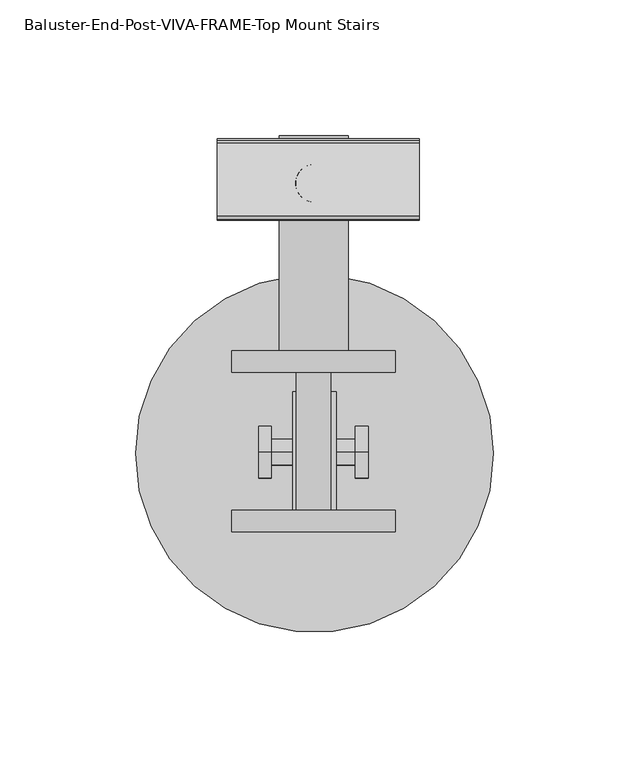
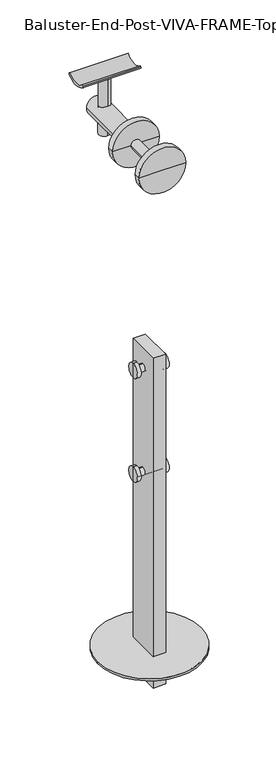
"""IFC4 building model written with IfcOpenShell, lengths in millimetres: proxy geometry, Baluster-End-Post-VIVA-FRAME-Top Mount Stairs : CORED INTO CONCRETE_TOP MOUNT FRAME_STAIR."""

from ifc_helpers import new_model, si_unit, point, frame, frame_2d, origin, place, context, project, spatial, polyline, circle_curve, trimmed, segment, composite_curve, outline, extrude, source, transform, mapped, element, save
from ifc_brep_helpers import plane_surface, cylinder_surface, advanced_brep


def baluster_end_post_viva_frame_top_mount_stairs_5fb22de0(model_context):
    return source(origin(), model_context, "Body", "SolidModel", [
        advanced_brep(
        [(-30.4813346, -121.9403, -73.6790445), (-6.6688346, -121.9403, -73.6790445), (6.0311654, -121.9403, -73.6790445), (29.8436654, -121.9403, -73.6790445), (-30.4813346, -129.8778, -73.6790445), (29.8436654, -129.8778, -73.6790445), (-30.4813346, -63.2028, -73.6790445), (-13.0188346, -63.2028, -73.6790445), (12.3811654, -63.2028, -73.6790445), (29.8436654, -63.2028, -73.6790445), (-30.4813346, -71.1403, -73.6790445), (29.8436654, -71.1403, -73.6790445), (-0.3188346, -129.8778, -73.6790445), (-13.0188346, 16.1722, -73.6790445), (-0.3188346, 16.1722, -73.6790445), (12.3811654, 16.1722, -73.6790445), (-6.6688346, -71.1403, -73.6790445), (6.0311654, -71.1403, -73.6790445)],
        [
            (0, 1),
            (1, 2, circle_curve(frame((-0.3188346, -121.9403, -73.6790445), z_axis=(0.0, -1.0, 0.0), x_axis=(1.0, 0.0, 0.0)), 6.35)),
            (2, 3),
            (3, 0, circle_curve(frame((-0.3188346, -121.9403, -73.6790445), z_axis=(0.0, 1.0, 0.0), x_axis=(1.0, 0.0, 0.0)), 30.1625)),
            (4, 0),
            (3, 5),
            (5, 4, circle_curve(frame((-0.3188346, -129.8778, -73.6790445), z_axis=(0.0, 1.0, 0.0), x_axis=(1.0, 0.0, 0.0)), 30.1625)),
            (6, 7),
            (7, 8, circle_curve(frame((-0.3188346, -63.2028, -73.6790445), z_axis=(0.0, -1.0, 0.0), x_axis=(1.0, 0.0, 0.0)), 12.7)),
            (8, 9),
            (9, 6, circle_curve(frame((-0.3188346, -63.2028, -73.6790445), z_axis=(0.0, 1.0, 0.0), x_axis=(1.0, 0.0, 0.0)), 30.1625)),
            (10, 6),
            (9, 11),
            (11, 10, circle_curve(frame((-0.3188346, -71.1403, -73.6790445), z_axis=(0.0, 1.0, 0.0), x_axis=(1.0, 0.0, 0.0)), 30.1625)),
            (3, 0, circle_curve(frame((-0.3188346, -121.9403, -73.6790445), z_axis=(0.0, -1.0, 0.0), x_axis=(1.0, 0.0, 0.0)), 30.1625)),
            (4, 5, circle_curve(frame((-0.3188346, -129.8778, -73.6790445), z_axis=(0.0, 1.0, 0.0), x_axis=(1.0, 0.0, 0.0)), 30.1625)),
            (12, 4),
            (5, 12),
            (13, 14),
            (14, 15),
            (15, 13, circle_curve(frame((-0.3188346, 16.1722, -73.6790445), z_axis=(0.0, 1.0, 0.0), x_axis=(1.0, 0.0, 0.0)), 12.7)),
            (13, 15, circle_curve(frame((-0.3188346, 16.1722, -73.6790445), z_axis=(0.0, 1.0, 0.0), x_axis=(1.0, 0.0, 0.0)), 12.7)),
            (7, 13),
            (15, 8),
            (7, 8, circle_curve(frame((-0.3188346, -63.2028, -73.6790445), z_axis=(0.0, 1.0, 0.0), x_axis=(1.0, 0.0, 0.0)), 12.7)),
            (6, 9, circle_curve(frame((-0.3188346, -63.2028, -73.6790445), z_axis=(0.0, 1.0, 0.0), x_axis=(1.0, 0.0, 0.0)), 30.1625)),
            (10, 11, circle_curve(frame((-0.3188346, -71.1403, -73.6790445), z_axis=(0.0, 1.0, 0.0), x_axis=(1.0, 0.0, 0.0)), 30.1625)),
            (16, 10),
            (11, 17),
            (17, 16, circle_curve(frame((-0.3188346, -71.1403, -73.6790445), z_axis=(0.0, 1.0, 0.0), x_axis=(1.0, 0.0, 0.0)), 6.35)),
            (16, 17, circle_curve(frame((-0.3188346, -71.1403, -73.6790445), z_axis=(0.0, 1.0, 0.0), x_axis=(1.0, 0.0, 0.0)), 6.35)),
            (1, 16),
            (17, 2),
            (1, 2, circle_curve(frame((-0.3188346, -121.9403, -73.6790445), z_axis=(0.0, 1.0, 0.0), x_axis=(1.0, 0.0, 0.0)), 6.35)),
        ],
        [
            plane_surface(frame((-0.3188346, -121.9403, -73.6790445), z_axis=(0.0, 1.0, 0.0), x_axis=(1.0, 0.0, 0.0))),
            cylinder_surface(frame((-0.3188346, -1595.1403, -73.6790445), z_axis=(0.0, -1.0, 0.0), x_axis=(1.0, 0.0, 0.0)), 30.1625),
            plane_surface(frame((-0.3188346, -63.2028, -73.6790445), z_axis=(0.0, 1.0, 0.0), x_axis=(1.0, 0.0, 0.0))),
            plane_surface(frame((-0.3188346, -129.8778, -73.6790445), z_axis=(0.0, -1.0, 0.0), x_axis=(1.0, 0.0, 0.0))),
            plane_surface(frame((-0.3188346, 16.1722, -73.6790445), z_axis=(0.0, 1.0, 0.0), x_axis=(1.0, 0.0, 0.0))),
            cylinder_surface(frame((-0.3188346, -1595.1403, -73.6790445), z_axis=(0.0, -1.0, 0.0), x_axis=(1.0, 0.0, 0.0)), 12.7),
            plane_surface(frame((-0.3188346, -71.1403, -73.6790445), z_axis=(0.0, -1.0, 0.0), x_axis=(1.0, 0.0, 0.0))),
            cylinder_surface(frame((-0.3188346, -1595.1403, -73.6790445), z_axis=(0.0, -1.0, 0.0), x_axis=(1.0, 0.0, 0.0)), 6.35),
        ],
        [
            (0, [[1, 2, 3, 4]]),
            (1, [[5, -4, 6, 7]]),
            (2, [[8, 9, 10, 11]]),
            (1, [[12, -11, 13, 14]]),
            (1, [[-6, 15, -5, 16]]),
            (3, [[17, -7, 18]]),
            (3, [[-18, -16, -17]]),
            (4, [[19, 20, 21]]),
            (4, [[-20, -19, 22]]),
            (5, [[23, -21, 24, -9]]),
            (5, [[-24, -22, -23, 25]]),
            (2, [[-10, -25, -8, 26]]),
            (1, [[-13, -26, -12, 27]]),
            (6, [[28, -14, 29, 30]]),
            (6, [[-29, -27, -28, 31]]),
            (7, [[32, -30, 33, -2]]),
            (7, [[-33, -31, -32, 34]]),
            (0, [[-3, -34, -1, -15]]),
        ],
    ),
        extrude(outline(composite_curve([segment(trimmed(circle_curve(frame_2d((0.0, 7.0)), 7.0), [point((0.0, 14.0))], [point((0.0, 0.0))], False, "CARTESIAN"), True, "CONTINUOUS"), segment(trimmed(circle_curve(frame_2d((0.0, 7.0)), 7.0), [point((0.0, 0.0))], [point((0.0, 14.0))], False, "CARTESIAN"), True, "CONTINUOUS")], self_intersect=False)), frame((-0.4484997, -8.4254391, -100.6444351), z_axis=(0.0059036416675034, 0.0, 0.9999825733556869), x_axis=(0.9999825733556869, 0.0, -0.0059036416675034)), (0.0, 0.0, 1.0), 75.97),
        extrude(outline(composite_curve([segment(polyline([(5.2466063, -13.9247916), (4.2292193, -14.9511812)]), True, "CONTINUOUS"), segment(trimmed(circle_curve(frame_2d((3.1638974, -13.8952033)), 1.5), [point((4.2292193, -14.9511812))], [point((2.0329756, -14.8806048))], False, "CARTESIAN"), True, "CONTINUOUS"), segment(trimmed(circle_curve(frame_2d((18.6575251, -0.3952033)), 22.05), [point((2.0329756, -14.8806048))], [point((2.0329756, 14.0901981))], False, "CARTESIAN"), True, "CONTINUOUS"), segment(trimmed(circle_curve(frame_2d((3.1638974, 13.1047967)), 1.5), [point((2.0329756, 14.0901981))], [point((4.2292193, 14.1607745))], False, "CARTESIAN"), True, "CONTINUOUS"), segment(polyline([(4.2292193, 14.1607745), (5.2466063, 13.1343849)]), True, "CONTINUOUS"), segment(trimmed(circle_curve(frame_2d((18.6575251, -0.3952033)), 19.05), [point((5.2466063, 13.1343849))], [point((5.2466063, -13.9247916))], True, "CARTESIAN"), True, "CONTINUOUS")], self_intersect=False)), frame((38.6744355, 0.3017933, -21.2832848), z_axis=(-0.9999997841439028, 0.0, 0.0006570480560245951), x_axis=(0.0006570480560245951, 0.0, 0.9999997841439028)), (0.0, 0.0, 1.0), 74.5229187),
        extrude(outline(polyline([(7.9375, -78.2802567), (7.9375, -122.7302567), (-7.9375, -122.7302567), (-7.9375, -78.2802567), (7.9375, -78.2802567)])), frame((0.0, 0.0, -775.8093072), z_axis=(0.0, 0.0, 1.0), x_axis=(1.0, 0.0, 0.0)), (0.0, 0.0, 1.0), 446.1236627),
        advanced_brep(
        [(-20.6502, -100.5078, -504.8504), (-20.6502, -100.5078, -485.7496), (-20.6502, -100.5078, -495.3), (-15.875, -100.5078, -504.8504), (-15.875, -100.5078, -485.7496), (-15.875, -100.5078, -500.0752), (-15.875, -100.5078, -490.5248), (15.0622, -100.5078, -500.0752), (15.0622, -100.5078, -490.5248), (15.0622, -100.5078, -504.8504), (15.0622, -100.5078, -485.7496), (19.8374, -100.5078, -504.8504), (19.8374, -100.5078, -485.7496), (19.8374, -100.5078, -495.3)],
        [
            (0, 1, circle_curve(frame((-20.6502, -100.5078, -495.3), z_axis=(-1.0, 0.0, 0.0), x_axis=(0.0, 0.0, 1.0)), 9.5504)),
            (1, 2),
            (2, 0),
            (1, 0, circle_curve(frame((-20.6502, -100.5078, -495.3), z_axis=(-1.0, 0.0, 0.0), x_axis=(0.0, 0.0, 1.0)), 9.5504)),
            (3, 4, circle_curve(frame((-15.875, -100.5078, -495.3), z_axis=(-1.0, 0.0, 0.0), x_axis=(0.0, 0.0, 1.0)), 9.5504)),
            (4, 1),
            (0, 3),
            (4, 3, circle_curve(frame((-15.875, -100.5078, -495.3), z_axis=(-1.0, 0.0, 0.0), x_axis=(0.0, 0.0, 1.0)), 9.5504)),
            (5, 6, circle_curve(frame((-15.875, -100.5078, -495.3), z_axis=(-1.0, 0.0, 0.0), x_axis=(0.0, 0.0, 1.0)), 4.7752)),
            (6, 4),
            (3, 5),
            (6, 5, circle_curve(frame((-15.875, -100.5078, -495.3), z_axis=(-1.0, 0.0, 0.0), x_axis=(0.0, 0.0, 1.0)), 4.7752)),
            (7, 8, circle_curve(frame((15.0622, -100.5078, -495.3), z_axis=(-1.0, 0.0, 0.0), x_axis=(0.0, 0.0, 1.0)), 4.7752)),
            (8, 6),
            (5, 7),
            (8, 7, circle_curve(frame((15.0622, -100.5078, -495.3), z_axis=(-1.0, 0.0, 0.0), x_axis=(0.0, 0.0, 1.0)), 4.7752)),
            (9, 10, circle_curve(frame((15.0622, -100.5078, -495.3), z_axis=(-1.0, 0.0, 0.0), x_axis=(0.0, 0.0, 1.0)), 9.5504)),
            (10, 8),
            (7, 9),
            (10, 9, circle_curve(frame((15.0622, -100.5078, -495.3), z_axis=(-1.0, 0.0, 0.0), x_axis=(0.0, 0.0, 1.0)), 9.5504)),
            (11, 12, circle_curve(frame((19.8374, -100.5078, -495.3), z_axis=(-1.0, 0.0, 0.0), x_axis=(0.0, 0.0, 1.0)), 9.5504)),
            (12, 10),
            (9, 11),
            (12, 11, circle_curve(frame((19.8374, -100.5078, -495.3), z_axis=(-1.0, 0.0, 0.0), x_axis=(0.0, 0.0, 1.0)), 9.5504)),
            (13, 12),
            (11, 13),
        ],
        [
            plane_surface(frame((-20.6502, -100.5078, -495.3), z_axis=(-1.0, 0.0, 0.0), x_axis=(0.0, 0.0, 1.0))),
            cylinder_surface(frame((-3412.2305571, -100.5078, -495.3), z_axis=(1.0, 0.0, 0.0), x_axis=(0.0, 0.0, 1.0)), 9.5504),
            plane_surface(frame((-15.875, -100.5078, -495.3), z_axis=(1.0, 0.0, 0.0), x_axis=(0.0, 0.0, 1.0))),
            cylinder_surface(frame((-3412.2305571, -100.5078, -495.3), z_axis=(1.0, 0.0, 0.0), x_axis=(0.0, 0.0, 1.0)), 4.7752),
            plane_surface(frame((15.0622, -100.5078, -495.3), z_axis=(-1.0, 0.0, 0.0), x_axis=(0.0, 0.0, 1.0))),
            plane_surface(frame((19.8374, -100.5078, -495.3), z_axis=(1.0, 0.0, 0.0), x_axis=(0.0, 0.0, 1.0))),
        ],
        [
            (0, [[1, 2, 3]]),
            (0, [[4, -3, -2]]),
            (1, [[5, 6, -1, 7]]),
            (1, [[8, -7, -4, -6]]),
            (2, [[9, 10, -5, 11]]),
            (2, [[12, -11, -8, -10]]),
            (3, [[13, 14, -9, 15]]),
            (3, [[16, -15, -12, -14]]),
            (4, [[17, 18, -13, 19]]),
            (4, [[20, -19, -16, -18]]),
            (1, [[21, 22, -17, 23]]),
            (1, [[24, -23, -20, -22]]),
            (5, [[25, -21, 26]]),
            (5, [[-26, -24, -25]]),
        ],
    ),
        advanced_brep(
        [(-20.6502, -100.5078, -364.6360445), (-20.6502, -100.5078, -345.5352445), (-20.6502, -100.5078, -355.0856445), (-15.875, -100.5078, -364.6360445), (-15.875, -100.5078, -345.5352445), (-15.875, -100.5078, -359.8608445), (-15.875, -100.5078, -350.3104445), (15.0622, -100.5078, -359.8608445), (15.0622, -100.5078, -350.3104445), (15.0622, -100.5078, -364.6360445), (15.0622, -100.5078, -345.5352445), (19.8374, -100.5078, -364.6360445), (19.8374, -100.5078, -345.5352445), (19.8374, -100.5078, -355.0856445)],
        [
            (0, 1, circle_curve(frame((-20.6502, -100.5078, -355.0856445), z_axis=(-1.0, 0.0, 0.0), x_axis=(0.0, 0.0, 1.0)), 9.5504)),
            (1, 2),
            (2, 0),
            (1, 0, circle_curve(frame((-20.6502, -100.5078, -355.0856445), z_axis=(-1.0, 0.0, 0.0), x_axis=(0.0, 0.0, 1.0)), 9.5504)),
            (3, 4, circle_curve(frame((-15.875, -100.5078, -355.0856445), z_axis=(-1.0, 0.0, 0.0), x_axis=(0.0, 0.0, 1.0)), 9.5504)),
            (4, 1),
            (0, 3),
            (4, 3, circle_curve(frame((-15.875, -100.5078, -355.0856445), z_axis=(-1.0, 0.0, 0.0), x_axis=(0.0, 0.0, 1.0)), 9.5504)),
            (5, 6, circle_curve(frame((-15.875, -100.5078, -355.0856445), z_axis=(-1.0, 0.0, 0.0), x_axis=(0.0, 0.0, 1.0)), 4.7752)),
            (6, 4),
            (3, 5),
            (6, 5, circle_curve(frame((-15.875, -100.5078, -355.0856445), z_axis=(-1.0, 0.0, 0.0), x_axis=(0.0, 0.0, 1.0)), 4.7752)),
            (7, 8, circle_curve(frame((15.0622, -100.5078, -355.0856445), z_axis=(-1.0, 0.0, 0.0), x_axis=(0.0, 0.0, 1.0)), 4.7752)),
            (8, 6),
            (5, 7),
            (8, 7, circle_curve(frame((15.0622, -100.5078, -355.0856445), z_axis=(-1.0, 0.0, 0.0), x_axis=(0.0, 0.0, 1.0)), 4.7752)),
            (9, 10, circle_curve(frame((15.0622, -100.5078, -355.0856445), z_axis=(-1.0, 0.0, 0.0), x_axis=(0.0, 0.0, 1.0)), 9.5504)),
            (10, 8),
            (7, 9),
            (10, 9, circle_curve(frame((15.0622, -100.5078, -355.0856445), z_axis=(-1.0, 0.0, 0.0), x_axis=(0.0, 0.0, 1.0)), 9.5504)),
            (11, 12, circle_curve(frame((19.8374, -100.5078, -355.0856445), z_axis=(-1.0, 0.0, 0.0), x_axis=(0.0, 0.0, 1.0)), 9.5504)),
            (12, 10),
            (9, 11),
            (12, 11, circle_curve(frame((19.8374, -100.5078, -355.0856445), z_axis=(-1.0, 0.0, 0.0), x_axis=(0.0, 0.0, 1.0)), 9.5504)),
            (13, 12),
            (11, 13),
        ],
        [
            plane_surface(frame((-20.6502, -100.5078, -355.0856445), z_axis=(-1.0, 0.0, 0.0), x_axis=(0.0, 0.0, 1.0))),
            cylinder_surface(frame((-3412.2305571, -100.5078, -355.0856445), z_axis=(1.0, 0.0, 0.0), x_axis=(0.0, 0.0, 1.0)), 9.5504),
            plane_surface(frame((-15.875, -100.5078, -355.0856445), z_axis=(1.0, 0.0, 0.0), x_axis=(0.0, 0.0, 1.0))),
            cylinder_surface(frame((-3412.2305571, -100.5078, -355.0856445), z_axis=(1.0, 0.0, 0.0), x_axis=(0.0, 0.0, 1.0)), 4.7752),
            plane_surface(frame((15.0622, -100.5078, -355.0856445), z_axis=(-1.0, 0.0, 0.0), x_axis=(0.0, 0.0, 1.0))),
            plane_surface(frame((19.8374, -100.5078, -355.0856445), z_axis=(1.0, 0.0, 0.0), x_axis=(0.0, 0.0, 1.0))),
        ],
        [
            (0, [[1, 2, 3]]),
            (0, [[4, -3, -2]]),
            (1, [[5, 6, -1, 7]]),
            (1, [[8, -7, -4, -6]]),
            (2, [[9, 10, -5, 11]]),
            (2, [[12, -11, -8, -10]]),
            (3, [[13, 14, -9, 15]]),
            (3, [[16, -15, -12, -14]]),
            (4, [[17, 18, -13, 19]]),
            (4, [[20, -19, -16, -18]]),
            (1, [[21, 22, -17, 23]]),
            (1, [[24, -23, -20, -22]]),
            (5, [[25, -21, 26]]),
            (5, [[-26, -24, -25]]),
        ],
    ),
        extrude(outline(composite_curve([segment(trimmed(circle_curve(frame_2d((0.0, -100.9769621)), 66.0), [point((-66.0, -100.9769621))], [point((66.0, -100.9769621))], False, "CARTESIAN"), True, "CONTINUOUS"), segment(trimmed(circle_curve(frame_2d((0.0, -100.9769621)), 66.0), [point((66.0, -100.9769621))], [point((-66.0, -100.9769621))], False, "CARTESIAN"), True, "CONTINUOUS")], self_intersect=False)), frame((0.0, 0.0, -736.0856445), z_axis=(0.0, 0.0, 1.0), x_axis=(1.0, 0.0, 0.0)), (0.0, 0.0, 1.0), 3.0),
    ])


if __name__ == "__main__":
    model = new_model("IFC4")
    model_context = context("Model", 3, world=origin())
    ifc_project = project(units=[si_unit("LENGTHUNIT", "METRE", prefix="MILLI")], contexts=[model_context])
    site = spatial("IfcSite", under=ifc_project)
    building = spatial("IfcBuilding", under=site)
    placement = place(None, origin())
    baluster_end_post_viva_frame_top_mount_stairs_shape = baluster_end_post_viva_frame_top_mount_stairs_5fb22de0(model_context)
    element("IfcBuildingElementProxy", 1, Name="Baluster-End-Post-VIVA-FRAME-Top Mount Stairs : CORED INTO CONCRETE_TOP MOUNT FRAME_STAIR", ObjectType="Baluster-End-Post-VIVA-FRAME-Top Mount Stairs : CORED INTO CONCRETE_TOP MOUNT FRAME_STAIR", at=placement, inside=building, context=model_context, shape_type="MappedRepresentation", body=[
        mapped(baluster_end_post_viva_frame_top_mount_stairs_shape, transform((0.0, 0.0, 0.0), x_axis=(1.0, 0.0, 0.0), y_axis=(0.0, 1.0, 0.0), z_axis=(0.0, 0.0, 1.0))),
    ])
    save(model, "model.ifc")
